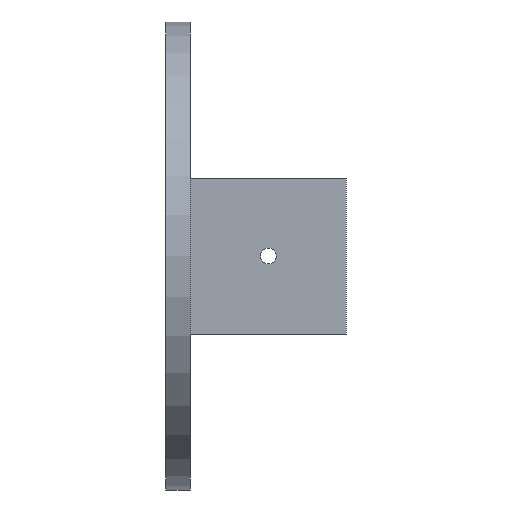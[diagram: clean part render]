
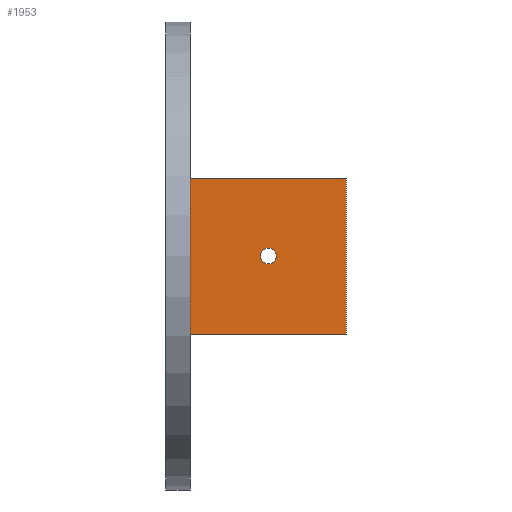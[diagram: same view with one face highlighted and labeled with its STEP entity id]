
A CAD part, front view. The second image highlights one B-rep face of the part: STEP entity #1953.
In plain terms, the highlighted planar face has unit normal (0, -1, 0).
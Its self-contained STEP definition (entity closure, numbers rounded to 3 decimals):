
#110 = EDGE_CURVE ( 'NONE', #641, #152, #1410, .T. ) ;
#123 = LINE ( 'NONE', #1916, #253 ) ;
#131 = DIRECTION ( 'NONE',  ( 0., 0., -1. ) ) ;
#152 = VERTEX_POINT ( 'NONE', #2294 ) ;
#165 = DIRECTION ( 'NONE',  ( 0., -1., 0. ) ) ;
#201 = ORIENTED_EDGE ( 'NONE', *, *, #1688, .F. ) ;
#244 = ORIENTED_EDGE ( 'NONE', *, *, #928, .F. ) ;
#253 = VECTOR ( 'NONE', #1040, 1000. ) ;
#288 = VECTOR ( 'NONE', #1217, 1000. ) ;
#305 = ORIENTED_EDGE ( 'NONE', *, *, #2929, .T. ) ;
#355 = VECTOR ( 'NONE', #676, 1000. ) ;
#388 = CARTESIAN_POINT ( 'NONE',  ( 25., 0., 0. ) ) ;
#427 = CARTESIAN_POINT ( 'NONE',  ( 0., 0., -25. ) ) ;
#457 = VERTEX_POINT ( 'NONE', #427 ) ;
#460 = DIRECTION ( 'NONE',  ( -1., 0., 0. ) ) ;
#477 = ORIENTED_EDGE ( 'NONE', *, *, #1203, .F. ) ;
#489 = FACE_OUTER_BOUND ( 'NONE', #1943, .T. ) ;
#568 = CARTESIAN_POINT ( 'NONE',  ( 25., 0., 2.553 ) ) ;
#608 = VERTEX_POINT ( 'NONE', #1620 ) ;
#641 = VERTEX_POINT ( 'NONE', #568 ) ;
#676 = DIRECTION ( 'NONE',  ( 1., 0., 0. ) ) ;
#724 = CARTESIAN_POINT ( 'NONE',  ( 50., 0., 25. ) ) ;
#765 = CARTESIAN_POINT ( 'NONE',  ( 50., 0., 25. ) ) ;
#865 = AXIS2_PLACEMENT_3D ( 'NONE', #1161, #2272, #460 ) ;
#873 = AXIS2_PLACEMENT_3D ( 'NONE', #388, #2918, #2206 ) ;
#879 = EDGE_LOOP ( 'NONE', ( #477, #2415 ) ) ;
#928 = EDGE_CURVE ( 'NONE', #2086, #1015, #2281, .T. ) ;
#1015 = VERTEX_POINT ( 'NONE', #1343 ) ;
#1040 = DIRECTION ( 'NONE',  ( 1., 0., 0. ) ) ;
#1133 = EDGE_CURVE ( 'NONE', #457, #608, #123, .T. ) ;
#1161 = CARTESIAN_POINT ( 'NONE',  ( 50., 0., 25. ) ) ;
#1203 = EDGE_CURVE ( 'NONE', #152, #641, #1399, .T. ) ;
#1217 = DIRECTION ( 'NONE',  ( 0., 0., -1. ) ) ;
#1343 = CARTESIAN_POINT ( 'NONE',  ( 50., 0., 25. ) ) ;
#1399 = CIRCLE ( 'NONE', #1447, 2.553 ) ;
#1410 = CIRCLE ( 'NONE', #873, 2.553 ) ;
#1419 = LINE ( 'NONE', #1452, #288 ) ;
#1447 = AXIS2_PLACEMENT_3D ( 'NONE', #2452, #165, #131 ) ;
#1452 = CARTESIAN_POINT ( 'NONE',  ( 0., 0., 25. ) ) ;
#1619 = PLANE ( 'NONE',  #865 ) ;
#1620 = CARTESIAN_POINT ( 'NONE',  ( 50., 0., -25. ) ) ;
#1625 = LINE ( 'NONE', #765, #1720 ) ;
#1653 = CARTESIAN_POINT ( 'NONE',  ( 0., 0., 25. ) ) ;
#1688 = EDGE_CURVE ( 'NONE', #1015, #608, #1625, .T. ) ;
#1720 = VECTOR ( 'NONE', #2559, 1000. ) ;
#1844 = ORIENTED_EDGE ( 'NONE', *, *, #1133, .T. ) ;
#1916 = CARTESIAN_POINT ( 'NONE',  ( 50., 0., -25. ) ) ;
#1943 = EDGE_LOOP ( 'NONE', ( #1844, #201, #244, #305 ) ) ;
#1953 = ADVANCED_FACE ( 'NONE', ( #2493, #489 ), #1619, .F. ) ;
#2086 = VERTEX_POINT ( 'NONE', #1653 ) ;
#2206 = DIRECTION ( 'NONE',  ( 0., 0., -1. ) ) ;
#2272 = DIRECTION ( 'NONE',  ( 0., 1., 0. ) ) ;
#2281 = LINE ( 'NONE', #724, #355 ) ;
#2294 = CARTESIAN_POINT ( 'NONE',  ( 25., 0., -2.553 ) ) ;
#2415 = ORIENTED_EDGE ( 'NONE', *, *, #110, .F. ) ;
#2452 = CARTESIAN_POINT ( 'NONE',  ( 25., 0., 0. ) ) ;
#2493 = FACE_BOUND ( 'NONE', #879, .T. ) ;
#2559 = DIRECTION ( 'NONE',  ( 0., 0., -1. ) ) ;
#2918 = DIRECTION ( 'NONE',  ( 0., -1., 0. ) ) ;
#2929 = EDGE_CURVE ( 'NONE', #2086, #457, #1419, .T. ) ;
